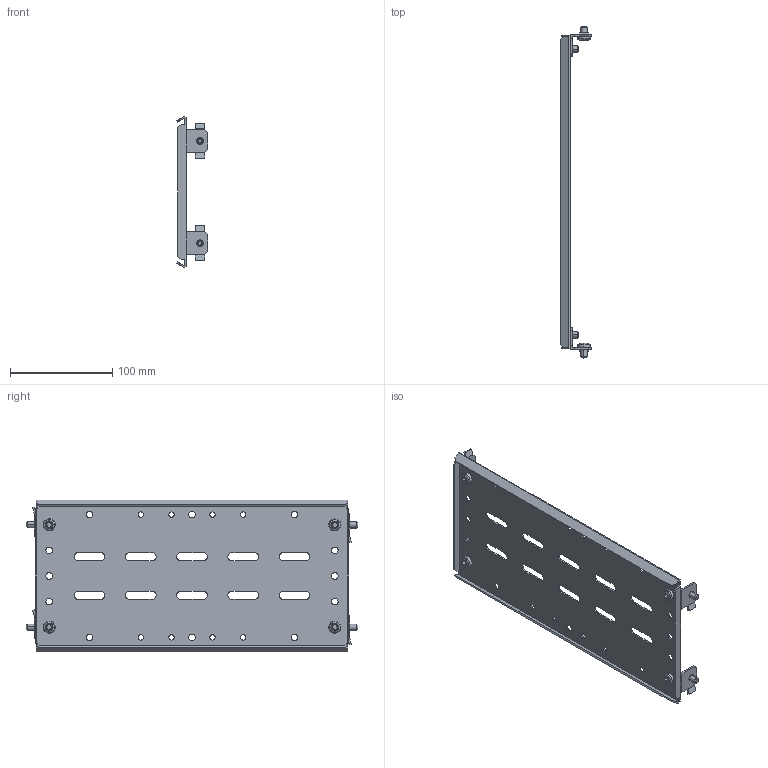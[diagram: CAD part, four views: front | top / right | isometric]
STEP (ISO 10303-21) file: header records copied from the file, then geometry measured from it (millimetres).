
FILE_DESCRIPTION (( 'STEP AP214' ), '1' );
FILE_NAME ('FO-00-SWF-015-040 Ïåðåãîðîäêà ñåêöèîíèðîâàíèÿ çàäíÿÿ 150õ400 ìì.STEP', '2025-08-12T08:10:30', ( '' ), ( '' ), 'SwSTEP 2.0', 'SolidWorks 2023', '' );
FILE_SCHEMA (( 'AUTOMOTIVE_DESIGN' ));
Length unit declared in the file: millimetre
Products named in the file (1): FO-00-SWF-015-040 Перегородка секционирования задняя 150х400 мм
Bounding box: 30.52 x 324 x 147.66 mm (x, y, z)
Volume: 85757.8 mm3; surface area: 109188.8 mm2
Topology: 1 solids, 5 shells, 494 faces, 1324 edges, 860 vertices
Faces by surface type: cylinder 246, plane 192, torus 24, cone 24, sphere 8
Entity records: 15795 total; most frequent: CARTESIAN_POINT 2947, DIRECTION 2754, ORIENTED_EDGE 2648, EDGE_CURVE 1324, AXIS2_PLACEMENT_3D 1003, VERTEX_POINT 860, VECTOR 748, LINE 748
